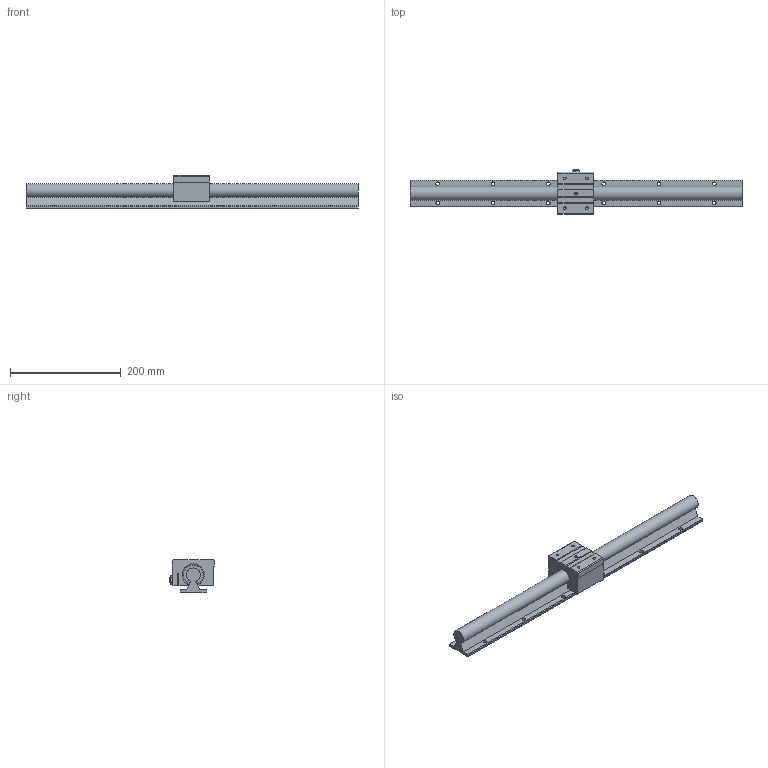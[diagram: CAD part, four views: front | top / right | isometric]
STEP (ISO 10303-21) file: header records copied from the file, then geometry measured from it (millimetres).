
FILE_DESCRIPTION((''),'2;1');
FILE_NAME('D:\製品 (図面)\カタログ用3D\リニアガイド関連\STEP形式\GTA(W)\GTAW25.stp','2010-06-08T09:18:20',('Tsuchiya'),(''),'Autodesk Inventor 10','Autodesk Inventor 10','');
FILE_SCHEMA(('AUTOMOTIVE_DESIGN { 1 0 10303 214 1 1 1 1 }'));
Length unit declared in the file: millimetre
Products named in the file (3): GTAW25; GTAW251; GTAW252
Assembly tree (2 placements, depth 2):
  GTAW25
    GTAW251
    GTAW252
Bounding box: 600 x 81 x 60 mm (x, y, z)
Volume: 756717.9 mm3; surface area: 147930.3 mm2
Topology: 2 solids, 2 shells, 203 faces, 538 edges, 350 vertices
Faces by surface type: plane 116, cylinder 48, cone 21, bspline 10, torus 8
Full cylindrical faces by diameter (mm): 6.5 x12, 8 x2, 10 x6, 10.4 x6
Entity records: 5949 total; most frequent: CARTESIAN_POINT 1324, ORIENTED_EDGE 918, DIRECTION 906, EDGE_CURVE 459, AXIS2_PLACEMENT_3D 325, VERTEX_POINT 321, EDGE_LOOP 294, VECTOR 256
